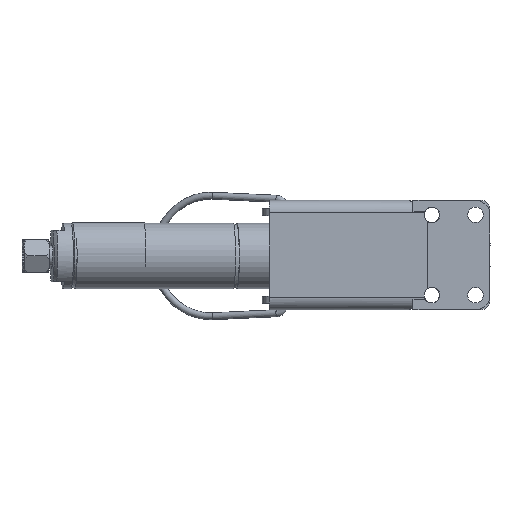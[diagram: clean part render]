
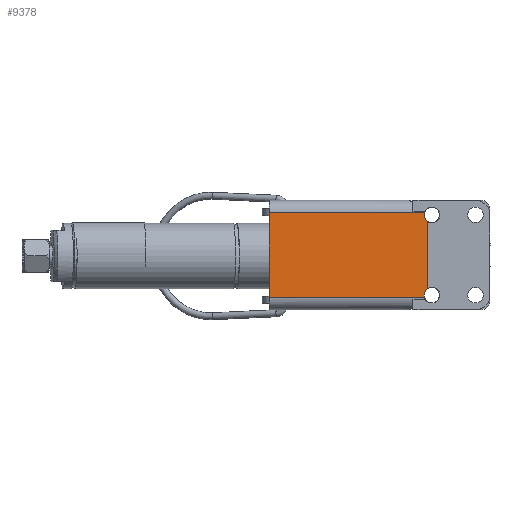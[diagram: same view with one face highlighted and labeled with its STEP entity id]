
A CAD part, front view. The second image highlights one B-rep face of the part: STEP entity #9378.
In plain terms, the highlighted planar face has unit normal (0, -1, 0).
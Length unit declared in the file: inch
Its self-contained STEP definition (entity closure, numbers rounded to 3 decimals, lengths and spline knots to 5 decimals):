
#532=LINE('',#19497,#977);
#537=LINE('',#19532,#982);
#548=LINE('',#19590,#993);
#570=LINE('',#19688,#1015);
#977=VECTOR('',#12957,2.65965);
#982=VECTOR('',#12974,1.14513);
#993=VECTOR('',#13013,2.65851);
#1015=VECTOR('',#13089,1.449);
#1512=PLANE('',#10504);
#2360=FACE_OUTER_BOUND('',#3162,.T.);
#3162=EDGE_LOOP('',(#8481,#8482,#8483,#8484,#8485,#8486));
#3888=CIRCLE('',#10446,0.133);
#3890=CIRCLE('',#10449,0.133);
#4736=VERTEX_POINT('',#19439);
#4740=VERTEX_POINT('',#19447);
#4744=VERTEX_POINT('',#19463);
#4745=VERTEX_POINT('',#19465);
#4754=VERTEX_POINT('',#19496);
#4779=VERTEX_POINT('',#19588);
#5972=EDGE_CURVE('',#4736,#4740,#3888,.T.);
#5976=EDGE_CURVE('',#4745,#4744,#3890,.T.);
#5988=EDGE_CURVE('',#4754,#4745,#532,.T.);
#5999=EDGE_CURVE('',#4736,#4744,#537,.T.);
#6023=EDGE_CURVE('',#4779,#4740,#548,.T.);
#6063=EDGE_CURVE('',#4779,#4754,#570,.T.);
#8481=ORIENTED_EDGE('',*,*,#5972,.T.);
#8482=ORIENTED_EDGE('',*,*,#6023,.F.);
#8483=ORIENTED_EDGE('',*,*,#6063,.T.);
#8484=ORIENTED_EDGE('',*,*,#5988,.T.);
#8485=ORIENTED_EDGE('',*,*,#5976,.T.);
#8486=ORIENTED_EDGE('',*,*,#5999,.F.);
#9378=ADVANCED_FACE('',(#2360),#1512,.T.);
#10446=AXIS2_PLACEMENT_3D('',#19456,#12926,#12927);
#10449=AXIS2_PLACEMENT_3D('',#19466,#12934,#12935);
#10504=AXIS2_PLACEMENT_3D('',#19687,#13087,#13088);
#12926=DIRECTION('center_axis',(0.,1.,0.));
#12927=DIRECTION('ref_axis',(1.,0.,0.));
#12934=DIRECTION('center_axis',(0.,1.,0.));
#12935=DIRECTION('ref_axis',(1.,0.,0.));
#12957=DIRECTION('',(1.,0.,0.));
#12974=DIRECTION('',(0.,0.,-1.));
#13013=DIRECTION('',(1.,0.,0.));
#13087=DIRECTION('center_axis',(0.,-1.,0.));
#13088=DIRECTION('ref_axis',(-1.,0.,0.));
#13089=DIRECTION('',(0.,0.,-1.));
#19439=CARTESIAN_POINT('',(24.10908,5.30135,-1.57011));
#19447=CARTESIAN_POINT('',(24.05134,5.30135,-1.42003));
#19456=CARTESIAN_POINT('Origin',(24.17909,5.30135,-1.45703));
#19463=CARTESIAN_POINT('',(24.10908,5.30135,-2.71524));
#19465=CARTESIAN_POINT('',(24.05248,5.30135,-2.86903));
#19466=CARTESIAN_POINT('Origin',(24.17909,5.30135,-2.82832));
#19496=CARTESIAN_POINT('',(21.39283,5.30135,-2.86903));
#19497=CARTESIAN_POINT('',(20.0051,5.30135,-2.86903));
#19532=CARTESIAN_POINT('',(24.10908,5.30135,0.85547));
#19588=CARTESIAN_POINT('',(21.39283,5.30135,-1.42003));
#19590=CARTESIAN_POINT('',(20.0051,5.30135,-1.42003));
#19687=CARTESIAN_POINT('Origin',(23.85908,5.30135,0.85547));
#19688=CARTESIAN_POINT('',(21.39283,5.30135,0.85547));
